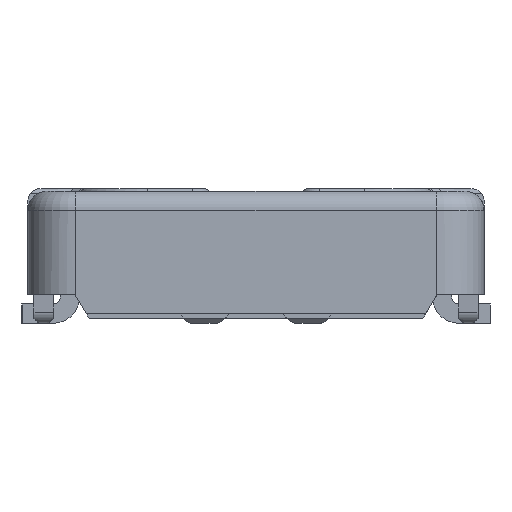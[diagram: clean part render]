
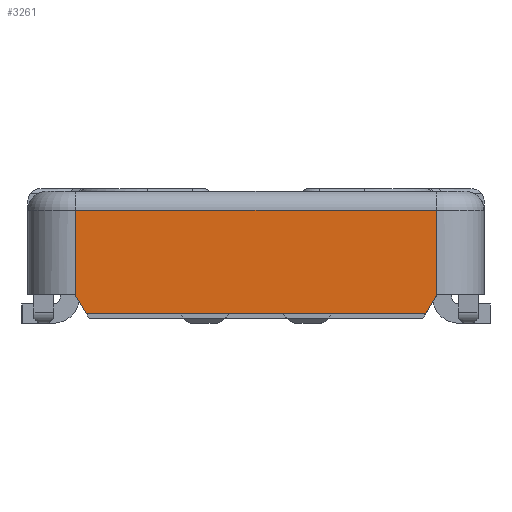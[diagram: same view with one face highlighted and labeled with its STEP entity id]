
A CAD part, front view. The second image highlights one B-rep face of the part: STEP entity #3261.
In plain terms, the highlighted planar face has unit normal (0, -1, 0).
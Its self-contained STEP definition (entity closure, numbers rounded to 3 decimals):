
#74 = CARTESIAN_POINT ( 'NONE',  ( 0.707, -8.7, 0.04 ) ) ;
#957 = VECTOR ( 'NONE', #12640, 1000. ) ;
#1859 = EDGE_CURVE ( 'NONE', #10871, #15609, #5473, .T. ) ;
#1927 = CARTESIAN_POINT ( 'NONE',  ( 0.75, -8.7, 0.112 ) ) ;
#2460 = DIRECTION ( 'NONE',  ( -1., 0., 0. ) ) ;
#2506 = EDGE_CURVE ( 'NONE', #10871, #11042, #8459, .T. ) ;
#2995 = ORIENTED_EDGE ( 'NONE', *, *, #13544, .F. ) ;
#3261 = ADVANCED_FACE ( 'NONE', ( #3879 ), #6954, .T. ) ;
#3879 = FACE_OUTER_BOUND ( 'NONE', #19547, .T. ) ;
#4395 = VECTOR ( 'NONE', #2460, 1000. ) ;
#5147 = CARTESIAN_POINT ( 'NONE',  ( -0.707, -8.7, 0.04 ) ) ;
#5473 = LINE ( 'NONE', #7467, #7733 ) ;
#6239 = LINE ( 'NONE', #15586, #12646 ) ;
#6954 = PLANE ( 'NONE',  #8855 ) ;
#7315 = LINE ( 'NONE', #24500, #957 ) ;
#7467 = CARTESIAN_POINT ( 'NONE',  ( 0.95, -8.7, 0.47 ) ) ;
#7733 = VECTOR ( 'NONE', #26831, 1000. ) ;
#8459 = LINE ( 'NONE', #27244, #27044 ) ;
#8855 = AXIS2_PLACEMENT_3D ( 'NONE', #23981, #9489, #26424 ) ;
#9489 = DIRECTION ( 'NONE',  ( 0., -1., 0. ) ) ;
#9854 = CARTESIAN_POINT ( 'NONE',  ( -0.707, -8.7, 0.04 ) ) ;
#9966 = DIRECTION ( 'NONE',  ( -0.514, 0., 0.857 ) ) ;
#10805 = LINE ( 'NONE', #74, #4395 ) ;
#10871 = VERTEX_POINT ( 'NONE', #23008 ) ;
#11042 = VERTEX_POINT ( 'NONE', #1927 ) ;
#12099 = VECTOR ( 'NONE', #9966, 1000. ) ;
#12640 = DIRECTION ( 'NONE',  ( 0., 0., 1. ) ) ;
#12646 = VECTOR ( 'NONE', #30323, 1000. ) ;
#13500 = ORIENTED_EDGE ( 'NONE', *, *, #27646, .F. ) ;
#13544 = EDGE_CURVE ( 'NONE', #18436, #15609, #7315, .T. ) ;
#13584 = VERTEX_POINT ( 'NONE', #15069 ) ;
#15069 = CARTESIAN_POINT ( 'NONE',  ( 0.707, -8.7, 0.04 ) ) ;
#15144 = DIRECTION ( 'NONE',  ( 0., 0., -1. ) ) ;
#15586 = CARTESIAN_POINT ( 'NONE',  ( 0.755, -8.7, 0.12 ) ) ;
#15609 = VERTEX_POINT ( 'NONE', #25390 ) ;
#16304 = ORIENTED_EDGE ( 'NONE', *, *, #23483, .F. ) ;
#18436 = VERTEX_POINT ( 'NONE', #23250 ) ;
#19547 = EDGE_LOOP ( 'NONE', ( #13500, #27047, #24139, #21526, #2995, #16304 ) ) ;
#21526 = ORIENTED_EDGE ( 'NONE', *, *, #1859, .T. ) ;
#23008 = CARTESIAN_POINT ( 'NONE',  ( 0.75, -8.7, 0.47 ) ) ;
#23250 = CARTESIAN_POINT ( 'NONE',  ( -0.75, -8.7, 0.112 ) ) ;
#23483 = EDGE_CURVE ( 'NONE', #29366, #18436, #25753, .T. ) ;
#23981 = CARTESIAN_POINT ( 'NONE',  ( 0., -8.7, 0. ) ) ;
#24139 = ORIENTED_EDGE ( 'NONE', *, *, #2506, .F. ) ;
#24500 = CARTESIAN_POINT ( 'NONE',  ( -0.75, -8.7, 0. ) ) ;
#25390 = CARTESIAN_POINT ( 'NONE',  ( -0.75, -8.7, 0.47 ) ) ;
#25753 = LINE ( 'NONE', #5147, #12099 ) ;
#26424 = DIRECTION ( 'NONE',  ( 0., 0., 1. ) ) ;
#26492 = EDGE_CURVE ( 'NONE', #11042, #13584, #6239, .T. ) ;
#26831 = DIRECTION ( 'NONE',  ( -1., 0., 0. ) ) ;
#27044 = VECTOR ( 'NONE', #15144, 1000. ) ;
#27047 = ORIENTED_EDGE ( 'NONE', *, *, #26492, .F. ) ;
#27244 = CARTESIAN_POINT ( 'NONE',  ( 0.75, -8.7, 0. ) ) ;
#27646 = EDGE_CURVE ( 'NONE', #13584, #29366, #10805, .T. ) ;
#29366 = VERTEX_POINT ( 'NONE', #9854 ) ;
#30323 = DIRECTION ( 'NONE',  ( -0.514, 0., -0.857 ) ) ;
